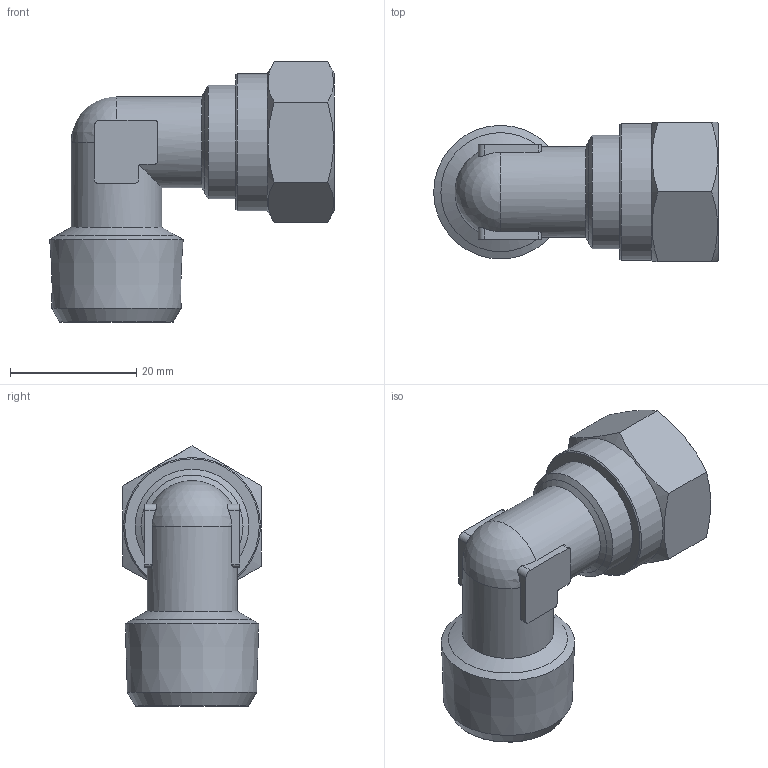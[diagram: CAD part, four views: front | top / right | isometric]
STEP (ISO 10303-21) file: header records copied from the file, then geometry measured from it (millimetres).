
FILE_DESCRIPTION(('Bauteilbeschreibung','HiCAD-Model','HiCAD-STEP-TRANSLATION','Bauteilbeschreibung'),'2;1');
FILE_NAME('B:/ABGLEICH/ZEICHNUNGEN/STEP FÜR INTERNET/STEP/205/92811_205_12_1-2.STP','2011-10-13T11:15:25+00:00',('Konstrukteur'),('Konstrukteur Firma GmbH'),' HiCAD neXt 2008, Step 3.1.1401.2J ','HiCAD neXt 2008','confidential');
FILE_SCHEMA(('AUTOMOTIVE_DESIGN { 1 2 10303 214 0 1 1 1 }'));
Length unit declared in the file: millimetre
Products named in the file (8): A2811_205_12_1_2; A2809; A28090; R 1_2; DIN 13_M18X1_5; A6805; A68050; DIN0130M18X105
Assembly tree (7 placements, depth 3):
  A2811_205_12_1_2
    A2809
    A28090
      R 1_2
      DIN 13_M18X1_5
    A6805
    A68050
      DIN0130M18X105
Bounding box: 45.07 x 22 x 41.2 mm (x, y, z)
Volume: 9410.4 mm3; surface area: 11293.1 mm2
Topology: 5 solids, 5 shells, 83 faces, 210 edges, 135 vertices
Faces by surface type: cylinder 30, plane 29, cone 23, sphere 1
Full cylindrical faces by diameter (mm): 10 x2, 12 x2, 14.4 x2, 15 x1, 16.16 x4, 18 x3, 21.7 x1
Entity records: 5027 total; most frequent: CARTESIAN_POINT 2375, DIRECTION 390, ORIENTED_EDGE 318, AXIS2_PLACEMENT_3D 170, EDGE_CURVE 159, COLOUR_RGB 141, PRESENTATION_STYLE_ASSIGNMENT 141, CURVE_STYLE 136
